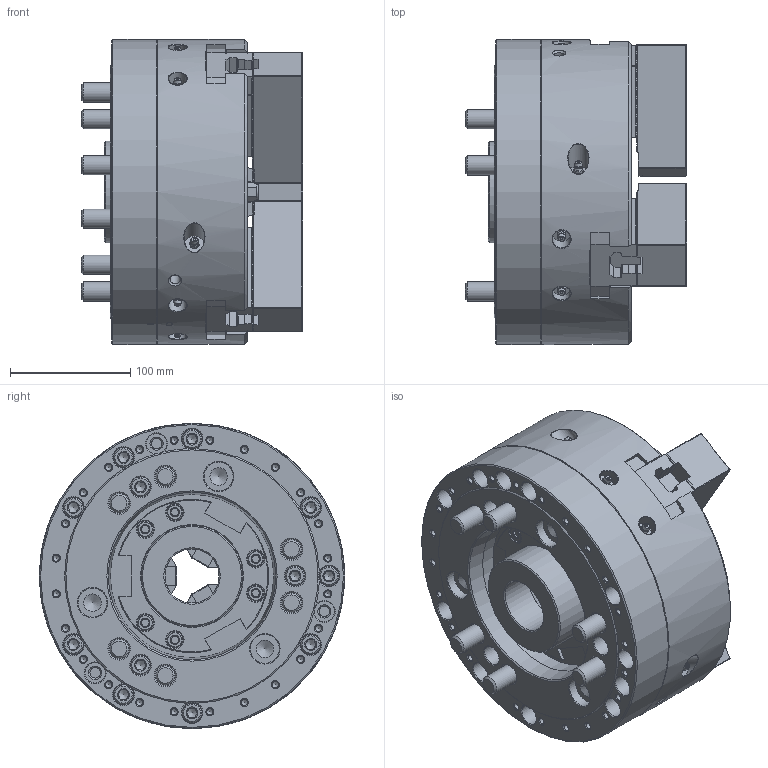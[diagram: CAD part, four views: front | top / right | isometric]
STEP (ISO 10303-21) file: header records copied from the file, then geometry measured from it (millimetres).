
FILE_DESCRIPTION (( 'STEP AP214' ), '1' );
FILE_NAME ('DT1_HOH-10K_OUTSIDE_VIEW_OC.STEP', '2024-05-09T04:14:09', ( '' ), ( '' ), 'SwSTEP 2.0', 'SolidWorks 2022', '' );
FILE_SCHEMA (( 'AUTOMOTIVE_DESIGN' ));
Length unit declared in the file: millimetre
Products named in the file (9): DT1_HOH-10K_M6x12^DT1_HOH-10K_ﾃﾞﾌｫﾙﾄ; DT1_HOH-10K_M16x120^DT1_HOH-10K_ﾃﾞﾌｫﾙﾄ; DT1_HOH-10K_BASE^DT1_HOH-10K_ﾃﾞﾌｫﾙﾄ; DT1_HOH-10K_TNUT^DT1_HOH-10K_ﾃﾞﾌｫﾙﾄ; DT1_HOH-10K_DRAWNUT^DT1_HOH-10K_ﾃﾞﾌｫﾙﾄ; DT1_HOH-10K_M12x35^DT1_HOH-10K_ﾃﾞﾌｫﾙﾄ; DT1_HOH-10K_SOFTJAW^DT1_HOH-10K_ﾃﾞﾌｫﾙﾄ; DT1_HOH-10K_COVER^DT1_HOH-10K_ﾃﾞﾌｫﾙﾄ; DT1_HOH-10K_OUTSIDE_VIEW_OC
Assembly tree (24 placements, depth 2):
  DT1_HOH-10K_OUTSIDE_VIEW_OC
    DT1_HOH-10K_SOFTJAW^DT1_HOH-10K_ﾃﾞﾌｫﾙﾄ  x3
    DT1_HOH-10K_TNUT^DT1_HOH-10K_ﾃﾞﾌｫﾙﾄ  x3
    DT1_HOH-10K_DRAWNUT^DT1_HOH-10K_ﾃﾞﾌｫﾙﾄ
    DT1_HOH-10K_COVER^DT1_HOH-10K_ﾃﾞﾌｫﾙﾄ
    DT1_HOH-10K_BASE^DT1_HOH-10K_ﾃﾞﾌｫﾙﾄ
    DT1_HOH-10K_M6x12^DT1_HOH-10K_ﾃﾞﾌｫﾙﾄ  x3
    DT1_HOH-10K_M12x35^DT1_HOH-10K_ﾃﾞﾌｫﾙﾄ  x6
    DT1_HOH-10K_M16x120^DT1_HOH-10K_ﾃﾞﾌｫﾙﾄ  x6
Bounding box: 184 x 254 x 254 mm (x, y, z)
Volume: 5537033 mm3; surface area: 587693.2 mm2
Topology: 24 solids, 30 shells, 4268 faces, 11859 edges, 7781 vertices
Faces by surface type: plane 3136, cylinder 579, cone 374, bspline 131, torus 39, sphere 9
Full cylindrical faces by diameter (mm): 2 x9, 5 x3, 5.2 x24, 6 x3, 6.6 x3, 8.6 x5, 10.2 x6, 10.22 x3, 11 x3, 12 x6, 13 x6, 13.27 x6, 14 x6, 15 x6, 16 x6, 16.27 x12, 17 x30, 18.27 x6, 19 x6, 24.21 x3, 24.33 x6, 25 x6, 45 x1, 65 x2, 70 x2, 76.4 x1, 84.5 x2, 92 x2, 136 x1, 244 x1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
Entity records: 125232 total; most frequent: CARTESIAN_POINT 47267, ORIENTED_EDGE 16962, DIRECTION 13987, EDGE_CURVE 8481, LINE 6115, VECTOR 6115, VERTEX_POINT 5764, AXIS2_PLACEMENT_3D 3936
